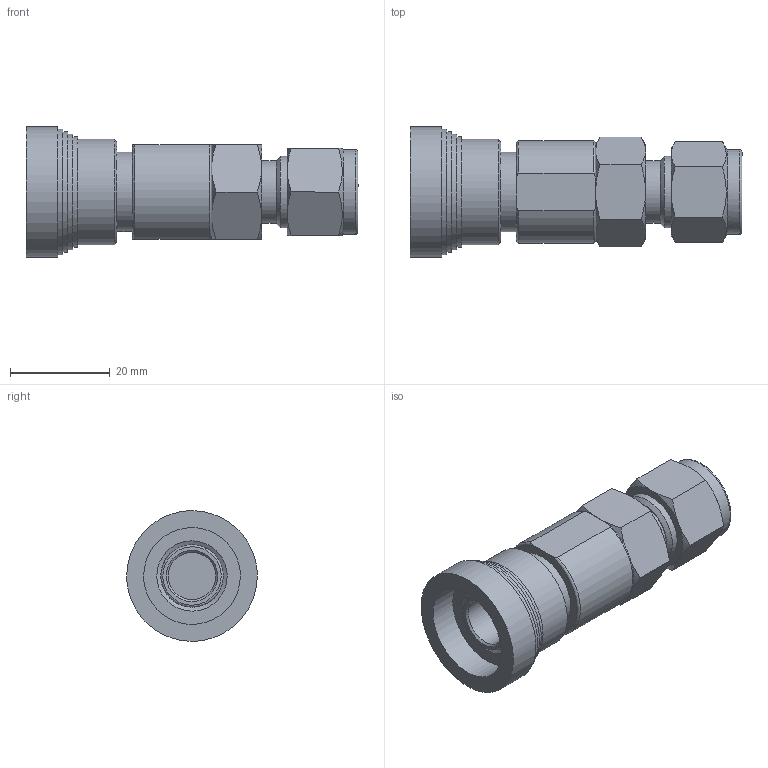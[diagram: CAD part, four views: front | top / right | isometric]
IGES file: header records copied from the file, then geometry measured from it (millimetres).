
Global section: file name: SQC2B-S6; native system: Autodesk Inventor 2016; preprocessor: unknown; author: 이승민,,11,0; organization: 20170206.121243; date: 20170209.081255; units: millimetre
Bounding box: 66.62 x 26.2 x 26.17 mm (x, y, z)
Volume: 17714.3 mm3; surface area: 6982.5 mm2
Topology: 1 solids, 1 shells, 82 faces, 202 edges, 138 vertices
Faces by surface type: bspline 82
